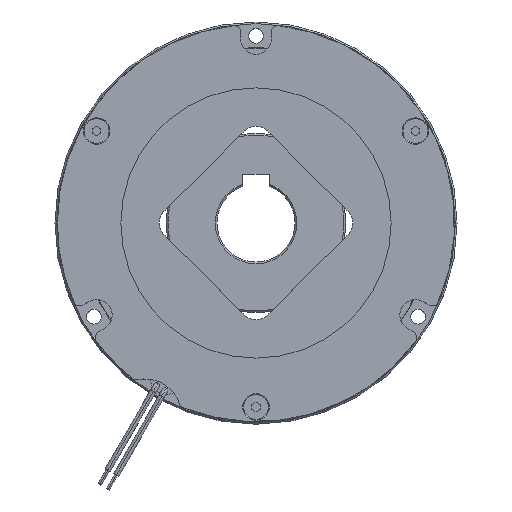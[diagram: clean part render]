
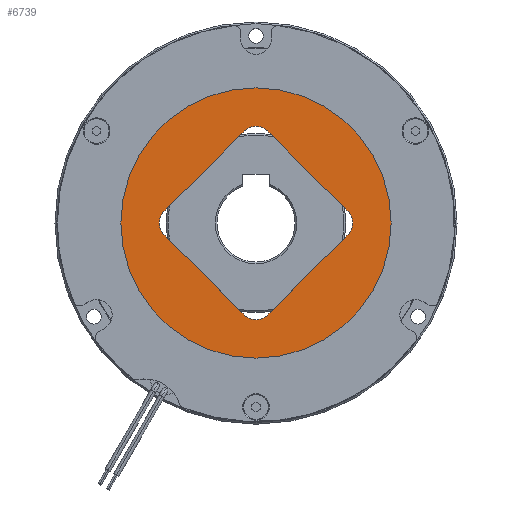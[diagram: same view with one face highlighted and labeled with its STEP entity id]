
A CAD part, top view. The second image highlights one B-rep face of the part: STEP entity #6739.
In plain terms, the highlighted planar face has unit normal (0, 0, 1).
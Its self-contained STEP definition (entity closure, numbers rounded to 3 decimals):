
#531 = LINE ( 'NONE', #2319, #545 ) ;
#533 = LINE ( 'NONE', #2305, #536 ) ;
#536 = VECTOR ( 'NONE', #2306, 1000. ) ;
#545 = VECTOR ( 'NONE', #2312, 1000. ) ;
#551 = LINE ( 'NONE', #2333, #554 ) ;
#554 = VECTOR ( 'NONE', #2335, 1000. ) ;
#560 = LINE ( 'NONE', #2344, #563 ) ;
#563 = VECTOR ( 'NONE', #2346, 1000. ) ;
#564 = LINE ( 'NONE', #2348, #567 ) ;
#567 = VECTOR ( 'NONE', #2350, 1000. ) ;
#594 = LINE ( 'NONE', #2403, #597 ) ;
#597 = VECTOR ( 'NONE', #2404, 1000. ) ;
#2002 = CARTESIAN_POINT ( 'NONE',  ( -31.82, 0., 21.5 ) ) ;
#2153 = DIRECTION ( 'NONE',  ( 0., 0., -1. ) ) ;
#2160 = DIRECTION ( 'NONE',  ( 0.707, -0.707, 0. ) ) ;
#2163 = CARTESIAN_POINT ( 'NONE',  ( -24.749, 0., 21.5 ) ) ;
#2169 = DIRECTION ( 'NONE',  ( 0.707, -0.707, 0. ) ) ;
#2176 = DIRECTION ( 'NONE',  ( -0.707, -0.707, 0. ) ) ;
#2191 = DIRECTION ( 'NONE',  ( 0., 0., -1. ) ) ;
#2192 = DIRECTION ( 'NONE',  ( 0.707, -0.707, 0. ) ) ;
#2197 = DIRECTION ( 'NONE',  ( 0., 0., 1. ) ) ;
#2201 = CARTESIAN_POINT ( 'NONE',  ( 0., -24.749, 21.5 ) ) ;
#2209 = DIRECTION ( 'NONE',  ( 1., 0., 0. ) ) ;
#2230 = CARTESIAN_POINT ( 'NONE',  ( 0., 0., 21.5 ) ) ;
#2232 = CARTESIAN_POINT ( 'NONE',  ( 0., 31.82, 21.5 ) ) ;
#2305 = CARTESIAN_POINT ( 'NONE',  ( 31.82, 0., 21.5 ) ) ;
#2306 = DIRECTION ( 'NONE',  ( 0.707, 0.707, 0. ) ) ;
#2312 = DIRECTION ( 'NONE',  ( -0.707, 0.707, 0. ) ) ;
#2319 = CARTESIAN_POINT ( 'NONE',  ( 0., 31.82, 21.5 ) ) ;
#2333 = CARTESIAN_POINT ( 'NONE',  ( 0., 31.82, 21.5 ) ) ;
#2335 = DIRECTION ( 'NONE',  ( -0.707, 0.707, 0. ) ) ;
#2344 = CARTESIAN_POINT ( 'NONE',  ( 0., 31.82, 21.5 ) ) ;
#2346 = DIRECTION ( 'NONE',  ( -0.707, -0.707, 0. ) ) ;
#2348 = CARTESIAN_POINT ( 'NONE',  ( 0., 31.82, 21.5 ) ) ;
#2350 = DIRECTION ( 'NONE',  ( -0.707, -0.707, 0. ) ) ;
#2403 = CARTESIAN_POINT ( 'NONE',  ( -31.82, 0., 21.5 ) ) ;
#2404 = DIRECTION ( 'NONE',  ( 0.707, -0.707, 0. ) ) ;
#2899 = VERTEX_POINT ( 'NONE', #10632 ) ;
#2905 = VERTEX_POINT ( 'NONE', #10643 ) ;
#2906 = VERTEX_POINT ( 'NONE', #10642 ) ;
#2907 = VERTEX_POINT ( 'NONE', #10645 ) ;
#2908 = VERTEX_POINT ( 'NONE', #10644 ) ;
#2909 = VERTEX_POINT ( 'NONE', #10648 ) ;
#2910 = VERTEX_POINT ( 'NONE', #10647 ) ;
#2914 = VERTEX_POINT ( 'NONE', #10653 ) ;
#2915 = VERTEX_POINT ( 'NONE', #10657 ) ;
#4023 = CARTESIAN_POINT ( 'NONE',  ( 27.09, -4.73, 21.5 ) ) ;
#4074 = CARTESIAN_POINT ( 'NONE',  ( -3.536, -28.284, 21.5 ) ) ;
#4127 = CARTESIAN_POINT ( 'NONE',  ( -27.09, 4.73, 21.5 ) ) ;
#4130 = CARTESIAN_POINT ( 'NONE',  ( 4.73, -27.09, 21.5 ) ) ;
#4156 = CARTESIAN_POINT ( 'NONE',  ( -28.284, -3.536, 21.5 ) ) ;
#4301 = AXIS2_PLACEMENT_3D ( 'NONE', #7954, #7956, #7957 ) ;
#4305 = AXIS2_PLACEMENT_3D ( 'NONE', #7930, #7786, #7934 ) ;
#4322 = AXIS2_PLACEMENT_3D ( 'NONE', #2201, #2191, #2169 ) ;
#4325 = AXIS2_PLACEMENT_3D ( 'NONE', #2230, #2197, #2209 ) ;
#4326 = AXIS2_PLACEMENT_3D ( 'NONE', #2163, #2153, #2160 ) ;
#5162 = EDGE_LOOP ( 'NONE', ( #5185, #7683, #7576, #7490, #7558, #7573, #7629, #7571, #7593, #7598, #7608, #7572, #7691, #7657, #7138, #7590 ) ) ;
#5185 = ORIENTED_EDGE ( 'NONE', *, *, #14391, .F. ) ;
#5219 = EDGE_LOOP ( 'NONE', ( #7658, #7641 ) ) ;
#5690 = EDGE_CURVE ( 'NONE', #9481, #9499, #13442, .T. ) ;
#5763 = EDGE_CURVE ( 'NONE', #9844, #9544, #13378, .T. ) ;
#5765 = EDGE_CURVE ( 'NONE', #2899, #2906, #13421, .T. ) ;
#5773 = EDGE_CURVE ( 'NONE', #2907, #9577, #13571, .T. ) ;
#5784 = EDGE_CURVE ( 'NONE', #2914, #2908, #13608, .T. ) ;
#5787 = EDGE_CURVE ( 'NONE', #2909, #9818, #13509, .T. ) ;
#5796 = EDGE_CURVE ( 'NONE', #9818, #9677, #13469, .T. ) ;
#5819 = EDGE_CURVE ( 'NONE', #2909, #9756, #13559, .T. ) ;
#5820 = EDGE_CURVE ( 'NONE', #9544, #2905, #13427, .T. ) ;
#5823 = EDGE_CURVE ( 'NONE', #2910, #9815, #13563, .T. ) ;
#5824 = EDGE_CURVE ( 'NONE', #9499, #9481, #13584, .T. ) ;
#5826 = EDGE_CURVE ( 'NONE', #9844, #2915, #13576, .T. ) ;
#6247 = AXIS2_PLACEMENT_3D ( 'NONE', #11649, #11650, #11651 ) ;
#6739 = ADVANCED_FACE ( 'NONE', ( #10942, #10946 ), #11642, .T. ) ;
#7138 = ORIENTED_EDGE ( 'NONE', *, *, #14389, .F. ) ;
#7490 = ORIENTED_EDGE ( 'NONE', *, *, #5784, .F. ) ;
#7558 = ORIENTED_EDGE ( 'NONE', *, *, #14379, .F. ) ;
#7571 = ORIENTED_EDGE ( 'NONE', *, *, #5796, .F. ) ;
#7572 = ORIENTED_EDGE ( 'NONE', *, *, #5820, .F. ) ;
#7573 = ORIENTED_EDGE ( 'NONE', *, *, #5773, .T. ) ;
#7576 = ORIENTED_EDGE ( 'NONE', *, *, #14384, .F. ) ;
#7590 = ORIENTED_EDGE ( 'NONE', *, *, #5823, .F. ) ;
#7593 = ORIENTED_EDGE ( 'NONE', *, *, #5787, .F. ) ;
#7598 = ORIENTED_EDGE ( 'NONE', *, *, #5819, .T. ) ;
#7608 = ORIENTED_EDGE ( 'NONE', *, *, #14413, .F. ) ;
#7629 = ORIENTED_EDGE ( 'NONE', *, *, #14373, .F. ) ;
#7641 = ORIENTED_EDGE ( 'NONE', *, *, #5690, .T. ) ;
#7657 = ORIENTED_EDGE ( 'NONE', *, *, #5826, .T. ) ;
#7658 = ORIENTED_EDGE ( 'NONE', *, *, #5824, .T. ) ;
#7683 = ORIENTED_EDGE ( 'NONE', *, *, #5765, .T. ) ;
#7691 = ORIENTED_EDGE ( 'NONE', *, *, #5763, .F. ) ;
#7706 = CARTESIAN_POINT ( 'NONE',  ( 31.82, 0., 21.5 ) ) ;
#7747 = DIRECTION ( 'NONE',  ( 0.707, 0.707, 0. ) ) ;
#7786 = DIRECTION ( 'NONE',  ( 0., 0., -1. ) ) ;
#7863 = CARTESIAN_POINT ( 'NONE',  ( -31.82, 0., 21.5 ) ) ;
#7884 = CARTESIAN_POINT ( 'NONE',  ( 31.82, 0., 21.5 ) ) ;
#7895 = DIRECTION ( 'NONE',  ( 1., 0., 0. ) ) ;
#7930 = CARTESIAN_POINT ( 'NONE',  ( 24.749, 0., 21.5 ) ) ;
#7934 = DIRECTION ( 'NONE',  ( 0.707, -0.707, 0. ) ) ;
#7937 = DIRECTION ( 'NONE',  ( 0.707, -0.707, 0. ) ) ;
#7942 = DIRECTION ( 'NONE',  ( 0.707, 0.707, 0. ) ) ;
#7949 = DIRECTION ( 'NONE',  ( 0., 0., 1. ) ) ;
#7954 = CARTESIAN_POINT ( 'NONE',  ( 0., 24.749, 21.5 ) ) ;
#7955 = CARTESIAN_POINT ( 'NONE',  ( 0., 0., 21.5 ) ) ;
#7956 = DIRECTION ( 'NONE',  ( 0., 0., -1. ) ) ;
#7957 = DIRECTION ( 'NONE',  ( 0.707, -0.707, 0. ) ) ;
#7987 = CARTESIAN_POINT ( 'NONE',  ( 0., 31.82, 21.5 ) ) ;
#7988 = DIRECTION ( 'NONE',  ( -0.707, 0.707, 0. ) ) ;
#9363 = AXIS2_PLACEMENT_3D ( 'NONE', #7955, #7949, #7895 ) ;
#9481 = VERTEX_POINT ( 'NONE', #13233 ) ;
#9499 = VERTEX_POINT ( 'NONE', #13251 ) ;
#9544 = VERTEX_POINT ( 'NONE', #13273 ) ;
#9577 = VERTEX_POINT ( 'NONE', #13303 ) ;
#9677 = VERTEX_POINT ( 'NONE', #4023 ) ;
#9756 = VERTEX_POINT ( 'NONE', #4074 ) ;
#9815 = VERTEX_POINT ( 'NONE', #4127 ) ;
#9818 = VERTEX_POINT ( 'NONE', #4130 ) ;
#9844 = VERTEX_POINT ( 'NONE', #4156 ) ;
#10632 = CARTESIAN_POINT ( 'NONE',  ( -3.536, 28.284, 21.5 ) ) ;
#10642 = CARTESIAN_POINT ( 'NONE',  ( 3.536, 28.284, 21.5 ) ) ;
#10643 = CARTESIAN_POINT ( 'NONE',  ( -4.73, -27.09, 21.5 ) ) ;
#10644 = CARTESIAN_POINT ( 'NONE',  ( 4.73, 27.09, 21.5 ) ) ;
#10645 = CARTESIAN_POINT ( 'NONE',  ( 28.284, 3.536, 21.5 ) ) ;
#10647 = CARTESIAN_POINT ( 'NONE',  ( -4.73, 27.09, 21.5 ) ) ;
#10648 = CARTESIAN_POINT ( 'NONE',  ( 3.536, -28.284, 21.5 ) ) ;
#10653 = CARTESIAN_POINT ( 'NONE',  ( 27.09, 4.73, 21.5 ) ) ;
#10657 = CARTESIAN_POINT ( 'NONE',  ( -28.284, 3.536, 21.5 ) ) ;
#10942 = FACE_BOUND ( 'NONE', #5162, .T. ) ;
#10946 = FACE_OUTER_BOUND ( 'NONE', #5219, .T. ) ;
#11642 = PLANE ( 'NONE',  #6247 ) ;
#11649 = CARTESIAN_POINT ( 'NONE',  ( 0., 0., 21.5 ) ) ;
#11650 = DIRECTION ( 'NONE',  ( 0., 0., 1. ) ) ;
#11651 = DIRECTION ( 'NONE',  ( 0.707, -0.707, 0. ) ) ;
#13233 = CARTESIAN_POINT ( 'NONE',  ( -41.5, 0., 21.5 ) ) ;
#13251 = CARTESIAN_POINT ( 'NONE',  ( 41.5, 0., 21.5 ) ) ;
#13273 = CARTESIAN_POINT ( 'NONE',  ( -27.09, -4.73, 21.5 ) ) ;
#13303 = CARTESIAN_POINT ( 'NONE',  ( 28.284, -3.536, 21.5 ) ) ;
#13344 = VECTOR ( 'NONE', #7937, 1000. ) ;
#13378 = LINE ( 'NONE', #7863, #13344 ) ;
#13421 = CIRCLE ( 'NONE', #4301, 5. ) ;
#13427 = LINE ( 'NONE', #2002, #13504 ) ;
#13442 = CIRCLE ( 'NONE', #9363, 41.5 ) ;
#13469 = LINE ( 'NONE', #7706, #13591 ) ;
#13504 = VECTOR ( 'NONE', #2192, 1000. ) ;
#13509 = LINE ( 'NONE', #7884, #13513 ) ;
#13510 = VECTOR ( 'NONE', #7988, 1000. ) ;
#13513 = VECTOR ( 'NONE', #7942, 1000. ) ;
#13559 = CIRCLE ( 'NONE', #4322, 5. ) ;
#13563 = LINE ( 'NONE', #2232, #13567 ) ;
#13567 = VECTOR ( 'NONE', #2176, 1000. ) ;
#13571 = CIRCLE ( 'NONE', #4305, 5. ) ;
#13576 = CIRCLE ( 'NONE', #4326, 5. ) ;
#13584 = CIRCLE ( 'NONE', #4325, 41.5 ) ;
#13591 = VECTOR ( 'NONE', #7747, 1000. ) ;
#13608 = LINE ( 'NONE', #7987, #13510 ) ;
#14373 = EDGE_CURVE ( 'NONE', #9677, #9577, #533, .T. ) ;
#14379 = EDGE_CURVE ( 'NONE', #2907, #2914, #531, .T. ) ;
#14384 = EDGE_CURVE ( 'NONE', #2908, #2906, #551, .T. ) ;
#14389 = EDGE_CURVE ( 'NONE', #9815, #2915, #560, .T. ) ;
#14391 = EDGE_CURVE ( 'NONE', #2899, #2910, #564, .T. ) ;
#14413 = EDGE_CURVE ( 'NONE', #2905, #9756, #594, .T. ) ;
